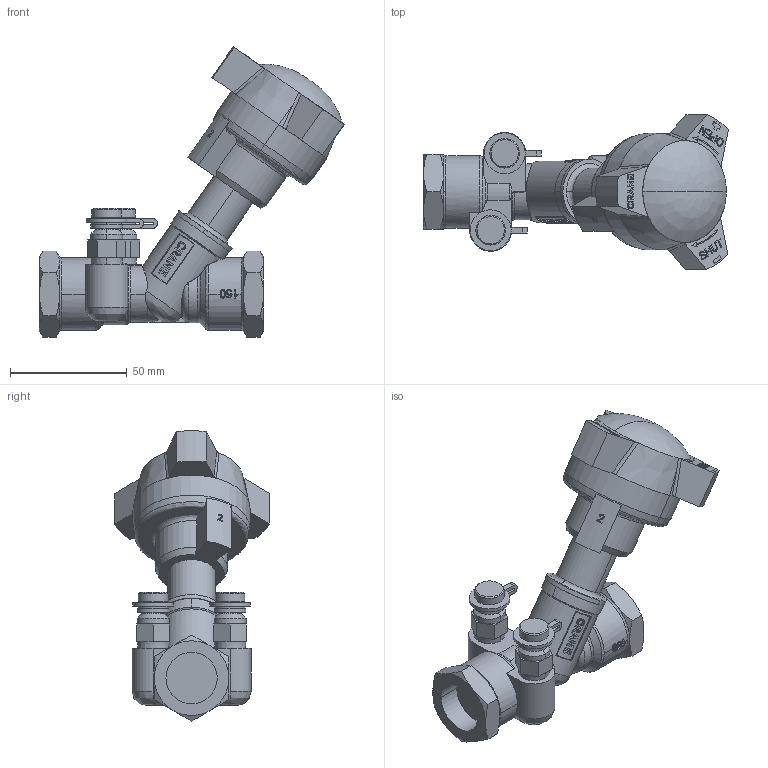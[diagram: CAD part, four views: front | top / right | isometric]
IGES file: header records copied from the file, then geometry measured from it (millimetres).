
Global section: file name: No Iges File Name specified; native system: AutoDesk Inventor R12.0; preprocessor: AutoDesk Inventor Iges Exporter R12.0; date: 20110304.142002; units: millimetre
Bounding box: 130.74 x 66.44 x 124.49 mm (x, y, z)
Volume: 180735.6 mm3; surface area: 32311.3 mm2
Topology: 1 solids, 1 shells, 860 faces, 2296 edges, 1497 vertices
Faces by surface type: bspline 368, plane 343, cylinder 82, cone 48, revolution 10, torus 7, sphere 2
